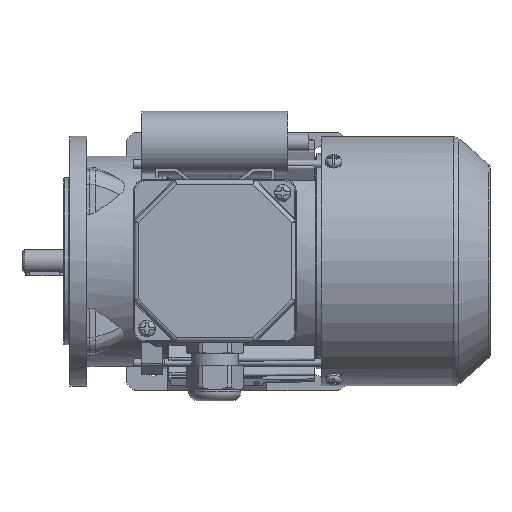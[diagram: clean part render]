
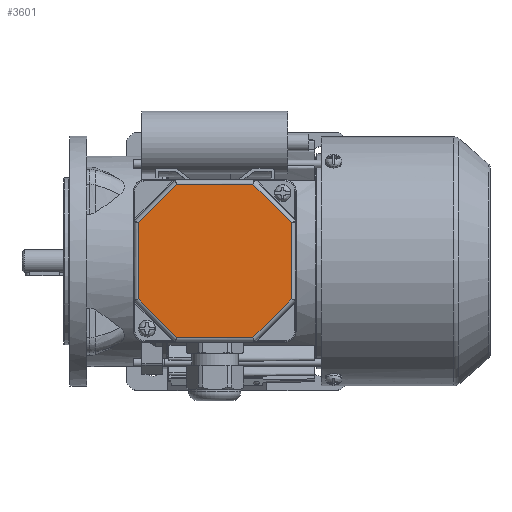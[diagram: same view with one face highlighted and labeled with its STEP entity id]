
A CAD part, top view. The second image highlights one B-rep face of the part: STEP entity #3601.
In plain terms, the highlighted planar face has unit normal (0, 0, 1).
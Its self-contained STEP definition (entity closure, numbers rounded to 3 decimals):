
#3601 = ADVANCED_FACE( '', ( #8061 ), #8062, .T. );
#8061 = FACE_OUTER_BOUND( '', #16939, .T. );
#8062 = PLANE( '', #16940 );
#16939 = EDGE_LOOP( '', ( #32172, #32173, #32174, #32175, #32176, #32177, #32178, #32179 ) );
#16940 = AXIS2_PLACEMENT_3D( '', #32180, #32181, #32182 );
#32172 = ORIENTED_EDGE( '', *, *, #47170, .T. );
#32173 = ORIENTED_EDGE( '', *, *, #47171, .T. );
#32174 = ORIENTED_EDGE( '', *, *, #46382, .T. );
#32175 = ORIENTED_EDGE( '', *, *, #47172, .T. );
#32176 = ORIENTED_EDGE( '', *, *, #47173, .T. );
#32177 = ORIENTED_EDGE( '', *, *, #47174, .T. );
#32178 = ORIENTED_EDGE( '', *, *, #47175, .T. );
#32179 = ORIENTED_EDGE( '', *, *, #45467, .T. );
#32180 = CARTESIAN_POINT( '', ( -39., 39., 12. ) );
#32181 = DIRECTION( '', ( 0., 0., 1. ) );
#32182 = DIRECTION( '', ( 1., 0., 0. ) );
#45467 = EDGE_CURVE( '', #53899, #53897, #53900, .T. );
#46382 = EDGE_CURVE( '', #55436, #55437, #55438, .F. );
#47170 = EDGE_CURVE( '', #53897, #53437, #56705, .F. );
#47171 = EDGE_CURVE( '', #53437, #55436, #56706, .T. );
#47172 = EDGE_CURVE( '', #55437, #56707, #56708, .T. );
#47173 = EDGE_CURVE( '', #56707, #56438, #56709, .F. );
#47174 = EDGE_CURVE( '', #56438, #56710, #56711, .T. );
#47175 = EDGE_CURVE( '', #56710, #53899, #56712, .F. );
#53437 = VERTEX_POINT( '', #64811 );
#53897 = VERTEX_POINT( '', #65754 );
#53899 = VERTEX_POINT( '', #65756 );
#53900 = LINE( '', #65757, #65758 );
#55436 = VERTEX_POINT( '', #69493 );
#55437 = VERTEX_POINT( '', #69494 );
#55438 = LINE( '', #69495, #69496 );
#56438 = VERTEX_POINT( '', #71746 );
#56705 = LINE( '', #72226, #72227 );
#56706 = LINE( '', #72228, #72229 );
#56707 = VERTEX_POINT( '', #72230 );
#56708 = LINE( '', #72231, #72232 );
#56709 = LINE( '', #72233, #72234 );
#56710 = VERTEX_POINT( '', #72235 );
#56711 = LINE( '', #72236, #72237 );
#56712 = LINE( '', #72238, #72239 );
#64811 = CARTESIAN_POINT( '', ( 36.825, 18.255, 12. ) );
#65754 = CARTESIAN_POINT( '', ( 36.825, -18.255, 12. ) );
#65756 = CARTESIAN_POINT( '', ( 18.255, -36.825, 12. ) );
#65757 = CARTESIAN_POINT( '', ( 37.401, -17.679, 12. ) );
#65758 = VECTOR( '', #84582, 1000. );
#69493 = CARTESIAN_POINT( '', ( 18.255, 36.825, 12. ) );
#69494 = CARTESIAN_POINT( '', ( -18.255, 36.825, 12. ) );
#69495 = CARTESIAN_POINT( '', ( -19.069, 36.825, 12. ) );
#69496 = VECTOR( '', #85644, 1000. );
#71746 = CARTESIAN_POINT( '', ( -36.825, -18.255, 12. ) );
#72226 = CARTESIAN_POINT( '', ( 36.825, 19.069, 12. ) );
#72227 = VECTOR( '', #86641, 1000. );
#72228 = CARTESIAN_POINT( '', ( 17.679, 37.401, 12. ) );
#72229 = VECTOR( '', #86642, 1000. );
#72230 = CARTESIAN_POINT( '', ( -36.825, 18.255, 12. ) );
#72231 = CARTESIAN_POINT( '', ( -37.401, 17.679, 12. ) );
#72232 = VECTOR( '', #86643, 1000. );
#72233 = CARTESIAN_POINT( '', ( -36.825, -19.069, 12. ) );
#72234 = VECTOR( '', #86644, 1000. );
#72235 = CARTESIAN_POINT( '', ( -18.255, -36.825, 12. ) );
#72236 = CARTESIAN_POINT( '', ( -17.679, -37.401, 12. ) );
#72237 = VECTOR( '', #86645, 1000. );
#72238 = CARTESIAN_POINT( '', ( 19.069, -36.825, 12. ) );
#72239 = VECTOR( '', #86646, 1000. );
#84582 = DIRECTION( '', ( 0.707, 0.707, 0. ) );
#85644 = DIRECTION( '', ( 1., 0., 0. ) );
#86641 = DIRECTION( '', ( 0., -1., 0. ) );
#86642 = DIRECTION( '', ( -0.707, 0.707, 0. ) );
#86643 = DIRECTION( '', ( -0.707, -0.707, 0. ) );
#86644 = DIRECTION( '', ( 0., 1., 0. ) );
#86645 = DIRECTION( '', ( 0.707, -0.707, 0. ) );
#86646 = DIRECTION( '', ( -1., 0., 0. ) );
